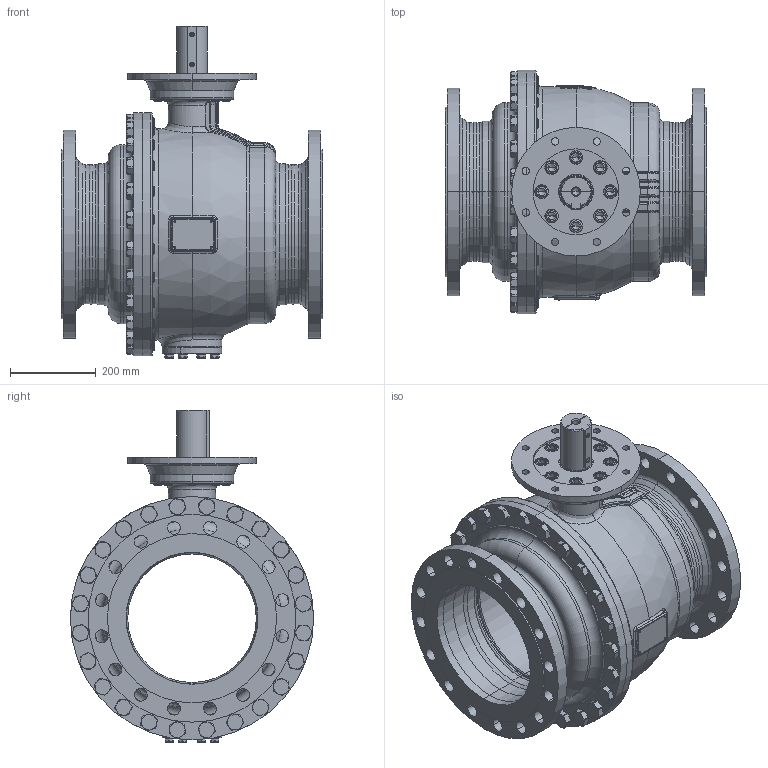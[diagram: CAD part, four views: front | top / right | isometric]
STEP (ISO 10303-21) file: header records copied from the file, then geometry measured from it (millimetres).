
FILE_DESCRIPTION((''),'2;1');
FILE_NAME('KHI-F_300-PN025-F25-P_SW0001','2026-02-05T14:57:19',('fischerkl'),('KLINGER'),'CREO PARAMETRIC BY PTC INC, 2023014','CREO PARAMETRIC BY PTC INC, 2023014','');
FILE_SCHEMA(('CONFIG_CONTROL_DESIGN'));
Products named in the file (1): KHI-F_300-PN025-F25-P_SW0001
Bounding box: 610 x 568 x 774.8 mm (x, y, z)
Volume: 31880799.5 mm3; surface area: 4609646.2 mm2
Topology: 1 solids, 4 shells, 3423 faces, 8678 edges, 5428 vertices
Faces by surface type: plane 1749, cylinder 785, cone 448, torus 301, bspline 111, sphere 29
Entity records: 145646 total; most frequent: CARTESIAN_POINT 64222, ORIENTED_EDGE 17304, DIRECTION 16689, EDGE_CURVE 8652, AXIS2_PLACEMENT_3D 6369, VERTEX_POINT 5428, VECTOR 3951, LINE 3951
